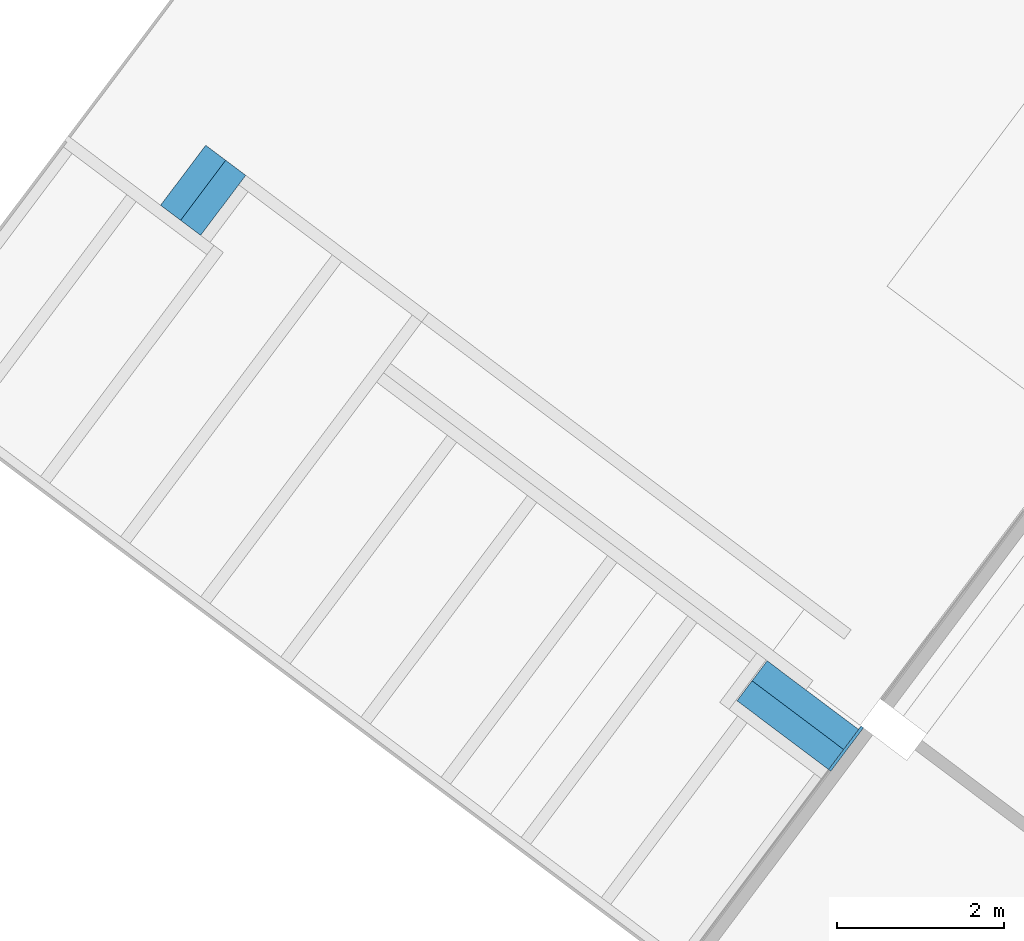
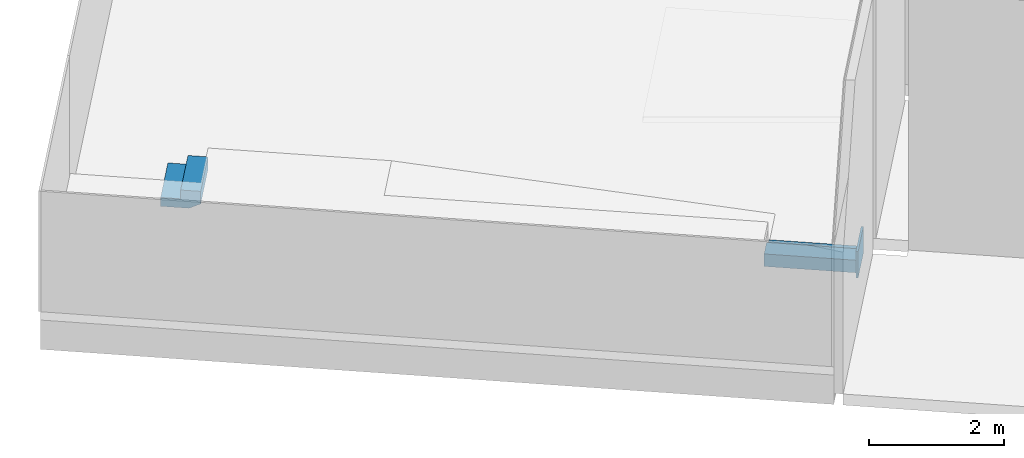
# One storey, part 8 of 15: 2 stair flights, 1 wall, 2 elements without a shape of their own.
"""IFC2X3 building model written with IfcOpenShell, lengths in metres."""

from ifc_helpers import new_model, entity, si_unit, converted_unit, derived_unit, direction, frame, frame_2d, origin, place, context, subcontext, project, spatial, rectangle, extrude, faceted_brep, material, layer, layer_set, layer_usage, type_object, element, aggregate, save


model = new_model("IFC2X3")

# Units and contexts
model_context = context("Model", 3, precision=1e-05, world=origin(), true_north=direction((6.123031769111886e-17, 1.0)))
body_context = subcontext(model_context, "Body", "Model", "MODEL_VIEW")
ifc_project = project(units=[si_unit("LENGTHUNIT", "METRE"), si_unit("AREAUNIT", "SQUARE_METRE"), si_unit("VOLUMEUNIT", "CUBIC_METRE"), converted_unit("PLANEANGLEUNIT", "DEGREE", entity("IfcRatioMeasure", 0.017453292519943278), si_unit("PLANEANGLEUNIT", "RADIAN"), dimensions=[0, 0, 0, 0, 0, 0, 0]), si_unit("MASSUNIT", "GRAM", prefix="KILO"), derived_unit("MASSDENSITYUNIT", [(si_unit("MASSUNIT", "GRAM", prefix="KILO"), 1), (si_unit("LENGTHUNIT", "METRE"), -3)]), derived_unit("IONCONCENTRATIONUNIT", [(si_unit("MASSUNIT", "GRAM", prefix="KILO"), 1), (si_unit("LENGTHUNIT", "METRE"), -3)]), derived_unit("MOMENTOFINERTIAUNIT", [(si_unit("LENGTHUNIT", "METRE"), 4)]), si_unit("TIMEUNIT", "SECOND"), si_unit("FREQUENCYUNIT", "HERTZ"), si_unit("THERMODYNAMICTEMPERATUREUNIT", "DEGREE_CELSIUS"), derived_unit("THERMALTRANSMITTANCEUNIT", [(si_unit("MASSUNIT", "GRAM", prefix="KILO"), 1), (si_unit("THERMODYNAMICTEMPERATUREUNIT", "KELVIN"), -1), (si_unit("TIMEUNIT", "SECOND"), -3)]), derived_unit("THERMALCONDUCTANCEUNIT", [(si_unit("MASSUNIT", "GRAM", prefix="KILO"), 1), (si_unit("THERMODYNAMICTEMPERATUREUNIT", "KELVIN"), -1), (si_unit("TIMEUNIT", "SECOND"), -3), (si_unit("LENGTHUNIT", "METRE"), 1)]), derived_unit("VOLUMETRICFLOWRATEUNIT", [(si_unit("LENGTHUNIT", "METRE"), 3), (si_unit("TIMEUNIT", "SECOND"), -1)]), derived_unit("MASSFLOWRATEUNIT", [(si_unit("MASSUNIT", "GRAM", prefix="KILO"), 1), (si_unit("TIMEUNIT", "SECOND"), -1)]), derived_unit("ROTATIONALFREQUENCYUNIT", [(si_unit("TIMEUNIT", "SECOND"), -1)]), si_unit("ELECTRICCURRENTUNIT", "AMPERE"), si_unit("ELECTRICVOLTAGEUNIT", "VOLT"), si_unit("POWERUNIT", "WATT"), si_unit("FORCEUNIT", "NEWTON", prefix="KILO"), si_unit("ILLUMINANCEUNIT", "LUX"), si_unit("LUMINOUSFLUXUNIT", "LUMEN"), si_unit("LUMINOUSINTENSITYUNIT", "CANDELA"), derived_unit("USERDEFINED", [(si_unit("MASSUNIT", "GRAM", prefix="KILO"), -1), (si_unit("LENGTHUNIT", "METRE"), -2), (si_unit("TIMEUNIT", "SECOND"), 3), (si_unit("LUMINOUSFLUXUNIT", "LUMEN"), 1)]), derived_unit("USERDEFINED", [(si_unit("MASSUNIT", "GRAM", prefix="KILO"), 1), (si_unit("TIMEUNIT", "SECOND"), -3), (si_unit("LENGTHUNIT", "METRE"), 3), (si_unit("ELECTRICCURRENTUNIT", "AMPERE"), -2)]), derived_unit("SOUNDPOWERUNIT", [(si_unit("MASSUNIT", "GRAM", prefix="KILO"), 1), (si_unit("TIMEUNIT", "SECOND"), -3), (si_unit("LENGTHUNIT", "METRE"), 2)]), derived_unit("SOUNDPRESSUREUNIT", [(si_unit("MASSUNIT", "GRAM", prefix="KILO"), 1), (si_unit("LENGTHUNIT", "METRE"), -1), (si_unit("TIMEUNIT", "SECOND"), -2)]), derived_unit("LINEARVELOCITYUNIT", [(si_unit("LENGTHUNIT", "METRE"), 1), (si_unit("TIMEUNIT", "SECOND"), -1)]), si_unit("PRESSUREUNIT", "PASCAL"), derived_unit("USERDEFINED", [(si_unit("MASSUNIT", "GRAM", prefix="KILO"), 1), (si_unit("LENGTHUNIT", "METRE"), -2), (si_unit("TIMEUNIT", "SECOND"), -2)]), derived_unit("LINEARFORCEUNIT", [(si_unit("MASSUNIT", "GRAM", prefix="KILO"), 1), (si_unit("TIMEUNIT", "SECOND"), -2)]), derived_unit("PLANARFORCEUNIT", [(si_unit("MASSUNIT", "GRAM", prefix="KILO"), 1), (si_unit("LENGTHUNIT", "METRE"), -1), (si_unit("TIMEUNIT", "SECOND"), -2)]), derived_unit("SPECIFICHEATCAPACITYUNIT", [(si_unit("THERMODYNAMICTEMPERATUREUNIT", "KELVIN"), -1), (si_unit("LENGTHUNIT", "METRE"), 2), (si_unit("TIMEUNIT", "SECOND"), -2)]), derived_unit("HEATINGVALUEUNIT", [(si_unit("LENGTHUNIT", "METRE"), 2), (si_unit("TIMEUNIT", "SECOND"), -2)]), derived_unit("VAPORPERMEABILITYUNIT", [(si_unit("LENGTHUNIT", "METRE"), -1), (si_unit("TIMEUNIT", "SECOND"), 1)]), derived_unit("DYNAMICVISCOSITYUNIT", [(si_unit("MASSUNIT", "GRAM", prefix="KILO"), 1), (si_unit("TIMEUNIT", "SECOND"), -1), (si_unit("LENGTHUNIT", "METRE"), -1)]), derived_unit("THERMALEXPANSIONCOEFFICIENTUNIT", [(si_unit("THERMODYNAMICTEMPERATUREUNIT", "KELVIN"), -1)]), derived_unit("MODULUSOFELASTICITYUNIT", [(si_unit("MASSUNIT", "GRAM", prefix="KILO"), 1), (si_unit("LENGTHUNIT", "METRE"), -1), (si_unit("TIMEUNIT", "SECOND"), -2)]), derived_unit("ISOTHERMALMOISTURECAPACITYUNIT", [(si_unit("LENGTHUNIT", "METRE"), 3), (si_unit("MASSUNIT", "GRAM", prefix="KILO"), -1)]), derived_unit("MOISTUREDIFFUSIVITYUNIT", [(si_unit("TIMEUNIT", "SECOND"), -1), (si_unit("LENGTHUNIT", "METRE"), 2)])], contexts=[model_context])

# Site, building, storey
site_placement = place(None, frame((0.0, 0.0, 235.0), z_axis=(0.0, 0.0, 1.0), x_axis=(-0.7996477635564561, 0.6004693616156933, 0.0)))
site = spatial("IfcSite", under=ifc_project, at=site_placement, Name="Default", CompositionType="ELEMENT")
building_placement = place(site_placement, origin())
building = spatial("IfcBuilding", under=site, at=building_placement, CompositionType="ELEMENT")
storey_placement = place(building_placement, frame((0.0, 0.0, -5.4499999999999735)))
storey = spatial("IfcBuildingStorey", under=building, at=storey_placement, Name="PS1- Gimnàs", CompositionType="ELEMENT", Elevation=-5.4499999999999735)

# Wall
ifc_material_1 = material(Name="_Fusta massisa- T1-  REV- PAV")
ifc_layer_1 = layer(ifc_material_1, 0.015)
ifc_material_2 = material(Name="_Genèric perfils, muntants, rastrells")
ifc_layer_2 = layer(ifc_material_2, 0.02)
ifc_layer_set = layer_set([ifc_layer_1, ifc_layer_2], Name="Muro básico:REV- Fusta- T1- 3,5 cm")
ifc_layer_usage = layer_usage(ifc_layer_set, "AXIS2", "POSITIVE", -0.0175)
wall_type = type_object("IfcWallType", Name="Muro básico:REV- Fusta- T1- 3,5 cm", PredefinedType="STANDARD", material=ifc_layer_set)
wall_placement = place(storey_placement, frame((3.812647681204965, -21.990191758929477, 0.0), z_axis=(0.0, 0.0, 1.0), x_axis=(0.0, 1.0, 0.0)))
element("IfcWallStandardCase", 1, at=wall_placement, inside=storey, type_object=wall_type, material=ifc_layer_usage, Name="Muro básico:REV- Fusta- T1- 3,5 cm", ObjectType="Muro básico:REV- Fusta- T1- 3,5 cm", context=body_context, shape_type="SweptSolid", body=[
    extrude(rectangle(XDim=0.6500000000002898, YDim=0.03499999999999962, at=frame_2d((0.3250000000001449, 1.5785983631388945e-16), x_axis=(-1.0, 0.0))), origin(), (0.0, 0.0, 1.0), 0.47999999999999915),
])

# Stair, stair flight
stair_1_placement = place(storey_placement, origin())
stair_1 = element("IfcStair", 2, at=stair_1_placement, inside=storey, Name="Escalera moldeada in situ:Escalera", ObjectType="Escalera moldeada in situ:E-X1- Interior", ShapeType="STRAIGHT_RUN_STAIR")
ifc_material_3 = material(Name="_Formigó- T1- STR")
stair_flight_type = type_object("IfcStairFlightType", Name="Tramo monolítico:E00- STR- Ext", PredefinedType="STRAIGHT")
stair_flight_1_placement = place(stair_1_placement, frame((13.685147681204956, -22.84019175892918, 0.0)))
stair_flight_1 = element("IfcStairFlight", 3, at=stair_flight_1_placement, type_object=stair_flight_type, material=ifc_material_3, Name="Escalera moldeada in situ:Escalera:101298 Run 1", ObjectType="Tramo monolítico:E00- STR- Ext", NumberOfRiser=3, NumberOfTreads=2, RiserHeight=0.5249343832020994, TreadLength=0.9842519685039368, context=body_context, shape_type="Brep", body=[
    faceted_brep([(0.3000000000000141, 0.0, 0.15999999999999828), (0.6000000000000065, 0.0, 0.15999999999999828), (0.6000000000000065, 0.8999999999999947, 0.15999999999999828), (0.30000000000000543, 0.8999999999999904, 0.15999999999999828), (0.3000000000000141, 0.0, 0.0), (0.6000000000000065, 0.0, 0.0), (0.6000000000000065, 0.8999999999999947, 0.0), (0.3000000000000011, 0.8999999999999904, 0.0), (0.0, 0.0, 0.3199999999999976), (0.30000000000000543, 0.0, 0.3199999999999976), (0.30000000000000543, 0.8999999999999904, 0.3199999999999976), (0.0, 0.899999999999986, 0.3199999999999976), (0.0, 0.0, 0.09333333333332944), (0.1750000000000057, 0.0, 0.0), (0.17500000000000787, 0.8999999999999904, 0.0), (0.0, 0.899999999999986, 0.09333333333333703)], [[[0, 1, 2, 3]], [[1, 0, 4, 5]], [[2, 1, 5, 6]], [[3, 2, 6, 7]], [[8, 9, 10, 11]], [[4, 0, 9, 8, 12, 13]], [[0, 3, 10, 9]], [[3, 7, 14, 15, 11, 10]], [[8, 11, 15, 12]], [[5, 4, 13, 14, 7, 6]], [[14, 13, 12, 15]]]),
])
aggregate(stair_1, [stair_flight_1])

stair_2_placement = place(storey_placement, origin())
stair_2 = element("IfcStair", 4, at=stair_2_placement, inside=storey, Name="Escalera moldeada in situ:Escalera", ObjectType="Escalera moldeada in situ:E-X1- Interior", ShapeType="STRAIGHT_RUN_STAIR")
stair_flight_2_placement = place(stair_2_placement, frame((3.83014768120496, -21.940191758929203, 0.0)))
stair_flight_2 = element("IfcStairFlight", 5, at=stair_flight_2_placement, type_object=stair_flight_type, material=ifc_material_3, Name="Escalera moldeada in situ:Escalera:101314 Run 1", ObjectType="Tramo monolítico:E00- STR- Ext", NumberOfRiser=3, NumberOfTreads=2, RiserHeight=0.5249343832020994, TreadLength=0.9842519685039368, context=body_context, shape_type="Brep", body=[
    faceted_brep([(0.0, 0.3000000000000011, 0.15999999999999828), (0.0, 0.0, 0.15999999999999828), (1.3698928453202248, 0.0, 0.15999999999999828), (1.3698928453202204, 0.30000000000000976, 0.15999999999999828), (0.0, 0.3000000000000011, 0.0), (0.0, 0.0, 0.0), (1.3698928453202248, 0.0, 0.0), (1.3698928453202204, 0.3000000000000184, 0.0), (0.0, 0.5999999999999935, 0.3199999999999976), (0.0, 0.29999999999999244, 0.3199999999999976), (1.3698928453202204, 0.30000000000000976, 0.3199999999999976), (1.3698928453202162, 0.6000000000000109, 0.3199999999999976), (0.0, 0.5999999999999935, 0.09333333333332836), (0.0, 0.42499999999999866, 0.0), (1.3698928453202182, 0.4250000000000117, 0.0), (1.3698928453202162, 0.6000000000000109, 0.09333333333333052)], [[[0, 1, 2, 3]], [[1, 0, 4, 5]], [[2, 1, 5, 6]], [[3, 2, 6, 7]], [[8, 9, 10, 11]], [[4, 0, 9, 8, 12, 13]], [[0, 3, 10, 9]], [[3, 7, 14, 15, 11, 10]], [[8, 11, 15, 12]], [[5, 4, 13, 14, 7, 6]], [[14, 13, 12, 15]]]),
])
aggregate(stair_2, [stair_flight_2])

save(model, "model.ifc")
